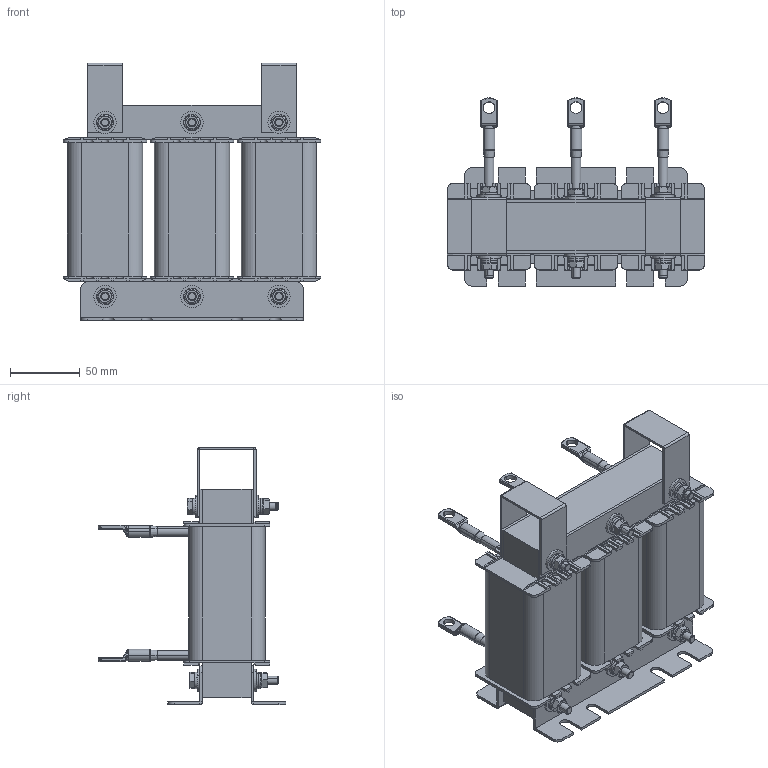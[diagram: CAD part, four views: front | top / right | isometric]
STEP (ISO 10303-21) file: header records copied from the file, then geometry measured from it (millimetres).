
FILE_DESCRIPTION (( 'STEP AP203' ), '1' );
FILE_NAME ('Ñåòåâîé äðîññåëü _ ISF-22_46.5-4.STEP', '2025-07-11T06:57:04', ( '' ), ( '' ), 'SwSTEP 2.0', 'SolidWorks 2021', '' );
FILE_SCHEMA (( 'CONFIG_CONTROL_DESIGN' ));
Length unit declared in the file: millimetre
Products named in the file (15): Øàéáà ïðóæèííàÿ DIN 127 (A)_Œ6; Ïëàñòèíà ïðèæèìíàÿ_22-45; Ñåòåâîé äðîññåëü _ ISF-22_46.5-4; 栫謱毿膻獥22; Øàéáà ïëîñêàÿ DIN 9021_Œ6; 侲膰翴籦鴀_22-45; 咈櫡_22-45; Êàòóøêà ñ âûâîäàìè_22; Ãàéêà DIN 934_Œ6; Áîëò DIN 933_Œ6å60; Øàéáà ïëîñêàÿ DIN 125 (A)_Œ6; Èçîëÿòîð êàòóøêè_22; Ñêîáà òàêåëàæíàÿ_22; 忺覷齆趌22; Âûâîä êàòóøêè_22
Assembly tree (63 placements, depth 3):
  Ñåòåâîé äðîññåëü _ ISF-22_46.5-4
    咈櫡_22-45  x2
    Èçîëÿòîð êàòóøêè_22  x6
    Êàòóøêà ñ âûâîäàìè_22  x3
      忺覷齆趌22
      Âûâîä êàòóøêè_22
      侲膰翴籦鴀_22-45
    Ïëàñòèíà ïðèæèìíàÿ_22-45  x2
    Ñêîáà òàêåëàæíàÿ_22  x2
    栫謱毿膻獥22
    Øàéáà ïëîñêàÿ DIN 9021_Œ6  x12
    Øàéáà ïëîñêàÿ DIN 125 (A)_Œ6  x12
    Øàéáà ïðóæèííàÿ DIN 127 (A)_Œ6  x6
    Ãàéêà DIN 934_Œ6  x6
    Áîëò DIN 933_Œ6å60  x6
Bounding box: 185 x 135 x 185 mm (x, y, z)
Volume: 1220188.7 mm3; surface area: 320605.6 mm2
Topology: 70 solids, 70 shells, 1700 faces, 4098 edges, 2520 vertices
Faces by surface type: plane 872, cylinder 480, cone 198, bspline 84, torus 42, sphere 24
Entity records: 14338 total; most frequent: CARTESIAN_POINT 3039, DIRECTION 1808, ORIENTED_EDGE 1686, EDGE_CURVE 843, AXIS2_PLACEMENT_3D 639, LINE 530, VECTOR 530, VERTEX_POINT 528
